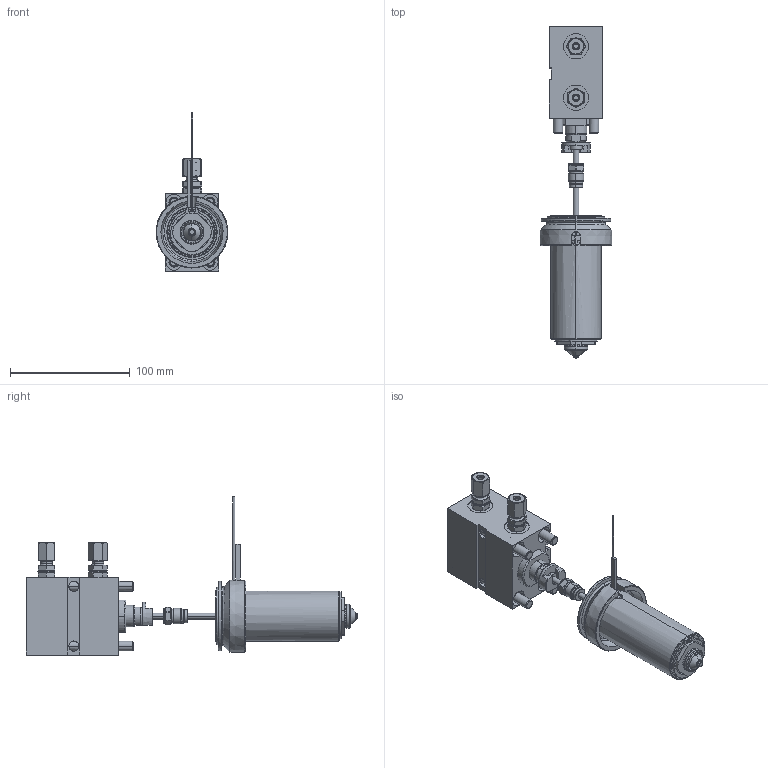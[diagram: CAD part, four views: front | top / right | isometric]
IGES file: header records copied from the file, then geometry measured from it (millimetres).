
Start section: Write IGES format                                    datakit 2008 (c)
Global section: file name: Unknown; native system: DATAKIT Converter; preprocessor: Unknown; author: Unknown; organization: Unknown; date: 950613.180003; units: millimetre
Bounding box: 59.93 x 277.5 x 132.15 mm (x, y, z)
Surface area: 152008.2 mm2 (no closed solid volume)
Topology: 0 solids, 0 shells, 787 faces, 3548 edges, 3530 vertices
Faces by surface type: revolution 508, bspline 279
